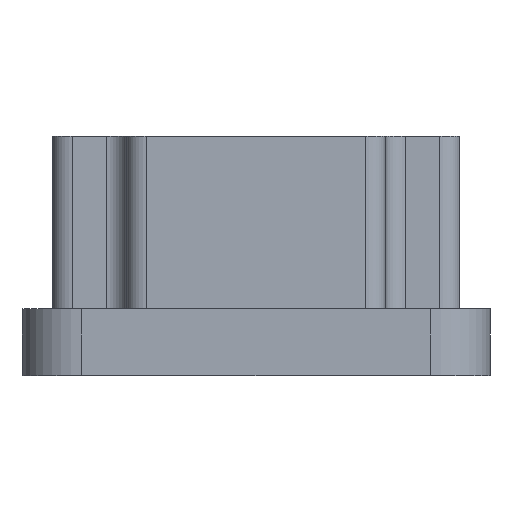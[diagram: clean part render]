
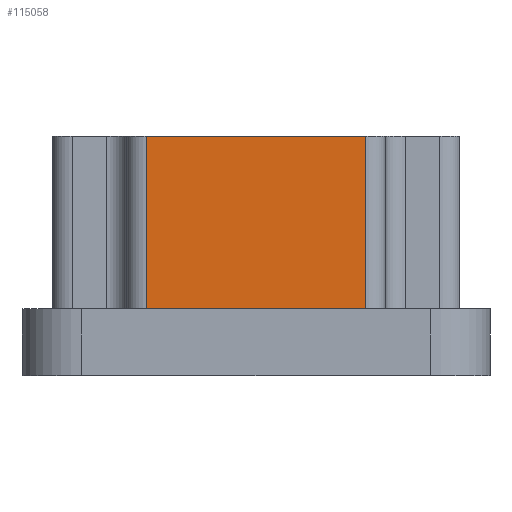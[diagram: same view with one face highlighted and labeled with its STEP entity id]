
A CAD part, front view. The second image highlights one B-rep face of the part: STEP entity #115058.
In plain terms, the highlighted planar face has unit normal (0, -1, 0).
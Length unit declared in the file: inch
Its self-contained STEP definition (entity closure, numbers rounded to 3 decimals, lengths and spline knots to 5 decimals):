
#106799=CARTESIAN_POINT('',(1.07775,0.095,0.75));
#106800=VERTEX_POINT('',#106799);
#106986=CARTESIAN_POINT('',(0.38975,0.095,0.75));
#106987=VERTEX_POINT('',#106986);
#106995=CARTESIAN_POINT('',(1.07775,0.095,0.75));
#106996=DIRECTION('',(-1.0,0.0,0.0));
#106997=VECTOR('',#106996,0.68799);
#106998=LINE('',#106995,#106997);
#106999=EDGE_CURVE('',#106800,#106987,#106998,.T.);
#114156=CARTESIAN_POINT('',(1.07775,0.095,0.21));
#114157=VERTEX_POINT('',#114156);
#114158=CARTESIAN_POINT('',(1.07775,0.095,0.75));
#114159=DIRECTION('',(0.0,0.0,-1.0));
#114160=VECTOR('',#114159,0.54);
#114161=LINE('',#114158,#114160);
#114162=EDGE_CURVE('',#106800,#114157,#114161,.T.);
#114361=CARTESIAN_POINT('',(0.38975,0.095,0.21));
#114362=VERTEX_POINT('',#114361);
#114370=CARTESIAN_POINT('',(0.38975,0.095,0.21));
#114371=DIRECTION('',(0.0,0.0,1.0));
#114372=VECTOR('',#114371,0.54);
#114373=LINE('',#114370,#114372);
#114374=EDGE_CURVE('',#114362,#106987,#114373,.T.);
#114497=CARTESIAN_POINT('',(1.07775,0.095,0.21));
#114498=DIRECTION('',(-1.0,0.0,0.0));
#114499=VECTOR('',#114498,0.68799);
#114500=LINE('',#114497,#114499);
#114501=EDGE_CURVE('',#114157,#114362,#114500,.T.);
#115047=CARTESIAN_POINT('',(1.14025,0.095,0.0));
#115048=DIRECTION('',(0.0,-1.0,0.0));
#115049=DIRECTION('',(0.0,0.0,-1.0));
#115050=AXIS2_PLACEMENT_3D('',#115047,#115048,#115049);
#115051=PLANE('',#115050);
#115052=ORIENTED_EDGE('',*,*,#114162,.F.);
#115053=ORIENTED_EDGE('',*,*,#106999,.T.);
#115054=ORIENTED_EDGE('',*,*,#114374,.F.);
#115055=ORIENTED_EDGE('',*,*,#114501,.F.);
#115056=EDGE_LOOP('',(#115052,#115053,#115054,#115055));
#115057=FACE_OUTER_BOUND('',#115056,.T.);
#115058=ADVANCED_FACE('',(#115057),#115051,.T.);
